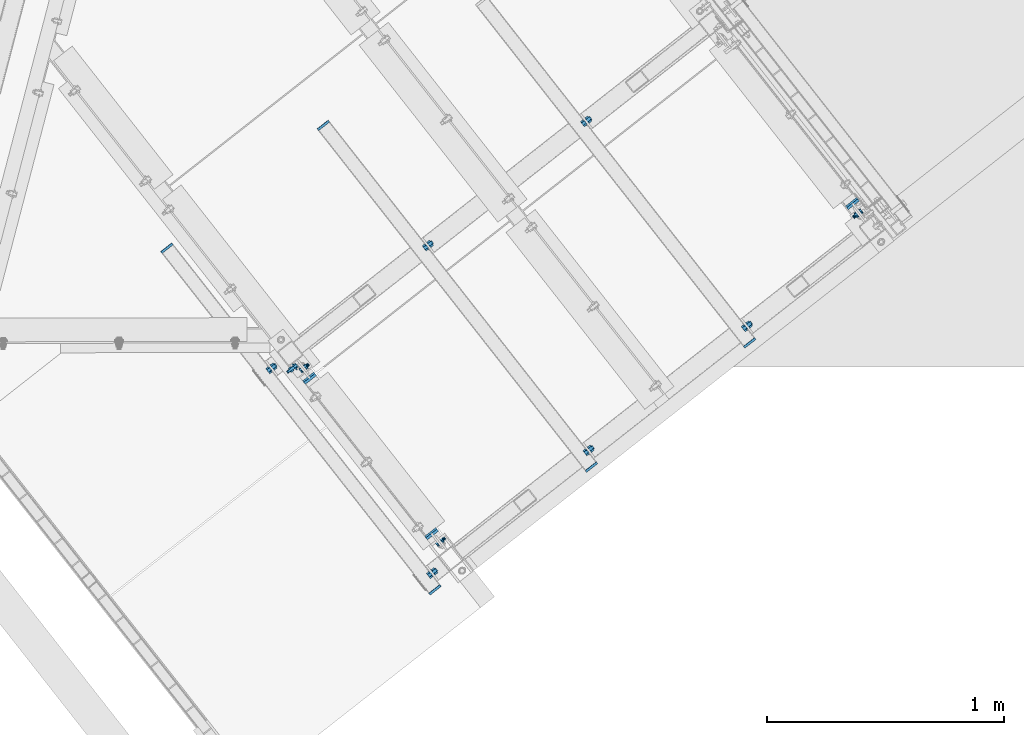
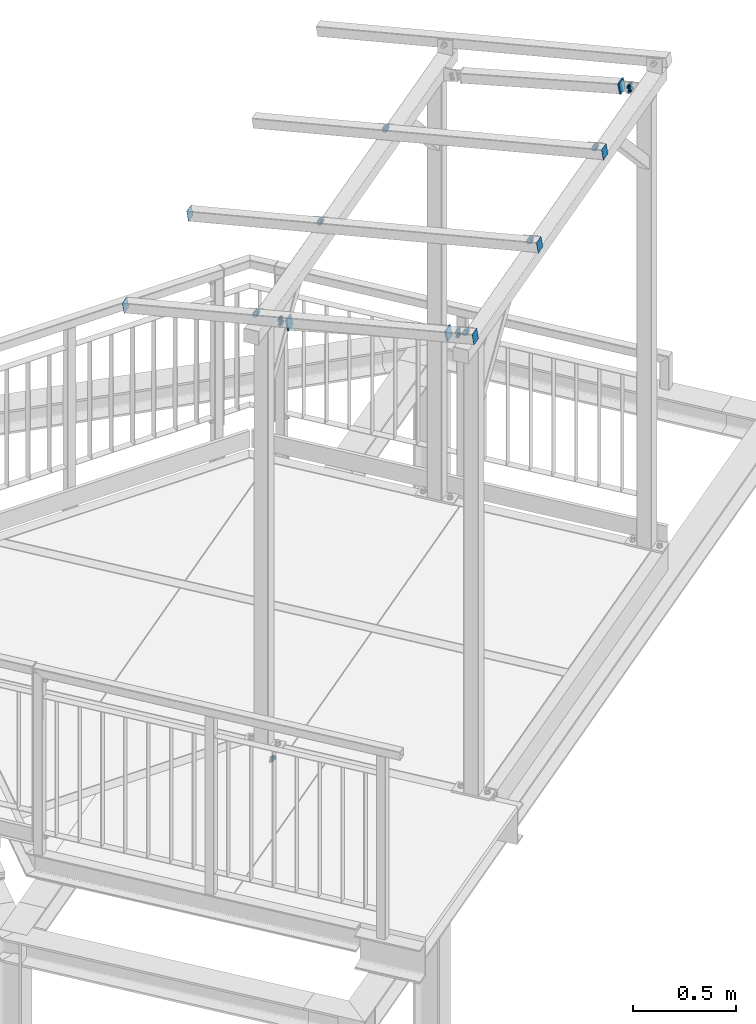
# One storey, part 168 of 169: 10 mechanical fasteners, 8 discrete accessories, 8 elements without a shape of their own.
"""IFC2X3 building model written with IfcOpenShell, lengths in millimetres."""

from ifc_helpers import new_model, si_unit, frame, frame_2d, origin_with_axes, origin_2d_with_axis, place, context, subcontext, project, spatial, polyline, circle_curve, parameter, trimmed, segment, composite_curve, circle, outline, extrude, source, transform, mapped, material, type_object, element, aggregate, save


model = new_model("IFC2X3")

# Units and contexts
model_context = context("Model", 3, precision=1e-05, world=origin_with_axes())
body_context = subcontext(model_context, "Body", "Model", "MODEL_VIEW")
ifc_project = project(units=[si_unit("LENGTHUNIT", "METRE", prefix="MILLI"), si_unit("AREAUNIT", "SQUARE_METRE"), si_unit("VOLUMEUNIT", "CUBIC_METRE"), si_unit("MASSUNIT", "GRAM", prefix="KILO"), si_unit("TIMEUNIT", "SECOND"), si_unit("PLANEANGLEUNIT", "RADIAN"), si_unit("SOLIDANGLEUNIT", "STERADIAN"), si_unit("THERMODYNAMICTEMPERATUREUNIT", "DEGREE_CELSIUS"), si_unit("LUMINOUSINTENSITYUNIT", "LUMEN")], contexts=[model_context])

# Site, building, storey
site_placement = place(None, origin_with_axes())
site = spatial("IfcSite", under=ifc_project, at=site_placement, Name="Undefined", CompositionType="ELEMENT")
building_placement = place(site_placement, origin_with_axes())
building = spatial("IfcBuilding", under=site, at=building_placement, Name="Undefined", CompositionType="ELEMENT")
storey_placement = place(building_placement, origin_with_axes())
storey = spatial("IfcBuildingStorey", under=building, at=storey_placement, Name="Undefined", CompositionType="ELEMENT", Elevation=0.0)

# Assembly, discrete accessory
assembly_1_placement = place(storey_placement, origin_with_axes())
assembly_1 = element("IfcElementAssembly", 1, at=assembly_1_placement, inside=storey, Name="Steel Assembly", AssemblyPlace="NOTDEFINED", PredefinedType="RIGID_FRAME")
ifc_material_1 = material(Name="STEEL/S235")
discrete_accessory_type_1 = type_object("IfcDiscreteAccessoryType", Name="BLACHA")
discrete_accessory_1_placement = place(assembly_1_placement, frame((22315.4039878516, 652.670061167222, 16489.1699975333), z_axis=(-0.607017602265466, 0.773740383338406, -0.181260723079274), x_axis=(0.786773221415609, 0.617242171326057, 0.0)))
discrete_accessory_1 = element("IfcDiscreteAccessory", 2, at=discrete_accessory_1_placement, type_object=discrete_accessory_type_1, material=ifc_material_1, Name="BLACHA", ObjectType="BL8*60", context=body_context, shape_type="SweptSolid", body=[
    extrude(outline(polyline([(1.63709046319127e-10, -30.0000000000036), (-1.63709046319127e-10, 30.0000000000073), (60.0000000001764, 30.0000000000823), (60.0000000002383, -29.9999999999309), (1.63709046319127e-10, -30.0000000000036)])), frame((1.81942236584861e-12, -3.63797880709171e-12, -4.00000000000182), z_axis=(0.0, 0.0, 1.0), x_axis=(1.0, 0.0, 0.0)), (0.0, 0.0, 1.0), 8.0),
])

# Assembly, discrete accessories
assembly_2_placement = place(storey_placement, origin_with_axes())
assembly_2 = element("IfcElementAssembly", 3, at=assembly_2_placement, inside=storey, Name="Steel Assembly", AssemblyPlace="NOTDEFINED", PredefinedType="RIGID_FRAME")
discrete_accessory_2_placement = place(assembly_2_placement, frame((20584.502900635, -705.262715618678, 16489.1697627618), z_axis=(-0.607017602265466, 0.773740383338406, -0.181260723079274), x_axis=(-0.7867732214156, -0.61724217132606, -1.0406294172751e-07)))
discrete_accessory_2 = element("IfcDiscreteAccessory", 4, at=discrete_accessory_2_placement, type_object=discrete_accessory_type_1, material=ifc_material_1, Name="BLACHA", ObjectType="BL8*60", context=body_context, shape_type="SweptSolid", body=[
    extrude(outline(polyline([(60.0000000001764, 30.0000000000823), (60.0000000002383, -29.9999999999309), (1.63709046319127e-10, -30.0000000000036), (-1.63709046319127e-10, 30.0000000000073), (60.0000000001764, 30.0000000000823)])), frame((1.81942236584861e-12, -3.63797880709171e-12, -4.00000000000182), z_axis=(0.0, 0.0, 1.0), x_axis=(1.0, 0.0, 0.0)), (0.0, 0.0, 1.0), 8.0),
])
discrete_accessory_3_placement = place(assembly_2_placement, frame((20069.0354074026, -48.217492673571, 16335.2466966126), z_axis=(0.607017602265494, -0.773740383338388, 0.181260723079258), x_axis=(-0.7867732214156, -0.61724217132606, -1.0406294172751e-07)))
discrete_accessory_3 = element("IfcDiscreteAccessory", 5, at=discrete_accessory_3_placement, type_object=discrete_accessory_type_1, material=ifc_material_1, Name="BLACHA", ObjectType="BL8*60", context=body_context, shape_type="SweptSolid", body=[
    extrude(outline(polyline([(60.0000000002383, -29.9999999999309), (1.63709046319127e-10, -30.0000000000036), (-1.63709046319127e-10, 30.0000000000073), (60.0000000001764, 30.0000000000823), (60.0000000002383, -29.9999999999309)])), frame((1.81942236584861e-12, -3.63797880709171e-12, -4.00000000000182), z_axis=(0.0, 0.0, 1.0), x_axis=(1.0, 0.0, 0.0)), (0.0, 0.0, 1.0), 8.0),
])

# Assembly, discrete accessory
assembly_3_placement = place(storey_placement, origin_with_axes())
assembly_3 = element("IfcElementAssembly", 6, at=assembly_3_placement, inside=storey, Name="Steel Assembly", AssemblyPlace="NOTDEFINED", PredefinedType="RIGID_FRAME")
discrete_accessory_4_placement = place(assembly_3_placement, frame((20082.9710721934, 978.989967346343, 16285.9941041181), z_axis=(0.609591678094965, -0.777021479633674, 0.156957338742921), x_axis=(0.786773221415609, 0.617242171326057, 0.0)))
discrete_accessory_4 = element("IfcDiscreteAccessory", 7, at=discrete_accessory_4_placement, type_object=discrete_accessory_type_1, material=ifc_material_1, Name="BLACHA", ObjectType="BL1*60", context=body_context, shape_type="SweptSolid", body=[
    extrude(outline(polyline([(0.0, 0.0), (60.0000000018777, -8.8220986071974e-11), (59.9999961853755, 60.0000000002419), (5.3567816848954e-11, 59.9999999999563), (0.0, 0.0)])), frame((4.96240207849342e-17, -1.81897552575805e-12, -0.5), z_axis=(0.0, 0.0, 1.0), x_axis=(1.0, 0.0, 0.0)), (0.0, 0.0, 1.0), 1.0),
])

assembly_4_placement = place(storey_placement, origin_with_axes())
assembly_4 = element("IfcElementAssembly", 8, at=assembly_4_placement, inside=storey, Name="Steel Assembly", AssemblyPlace="NOTDEFINED", PredefinedType="RIGID_FRAME")
discrete_accessory_5_placement = place(assembly_4_placement, frame((19422.0815651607, 460.506542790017, 16285.9940174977), z_axis=(0.609591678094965, -0.777021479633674, 0.156957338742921), x_axis=(0.786773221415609, 0.617242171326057, 0.0)))
discrete_accessory_5 = element("IfcDiscreteAccessory", 9, at=discrete_accessory_5_placement, type_object=discrete_accessory_type_1, material=ifc_material_1, Name="BLACHA", ObjectType="BL1*60", context=body_context, shape_type="SweptSolid", body=[
    extrude(outline(polyline([(0.0, 0.0), (60.0000000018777, -8.8220986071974e-11), (59.9999961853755, 60.0000000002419), (5.3567816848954e-11, 59.9999999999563), (0.0, 0.0)])), frame((4.96240207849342e-17, -1.81897552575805e-12, -0.5), z_axis=(0.0, 0.0, 1.0), x_axis=(1.0, 0.0, 0.0)), (0.0, 0.0, 1.0), 1.0),
])

assembly_5_placement = place(storey_placement, origin_with_axes())
assembly_5 = element("IfcElementAssembly", 10, at=assembly_5_placement, inside=storey, Name="Steel Assembly", AssemblyPlace="NOTDEFINED", PredefinedType="RIGID_FRAME")
discrete_accessory_6_placement = place(assembly_5_placement, frame((21925.44605229, 104.762625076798, 16636.8007538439), z_axis=(0.609591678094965, -0.777021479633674, 0.156957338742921), x_axis=(-0.7867732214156, -0.61724217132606, -1.0406294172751e-07)))
discrete_accessory_6 = element("IfcDiscreteAccessory", 11, at=discrete_accessory_6_placement, type_object=discrete_accessory_type_1, material=ifc_material_1, Name="BLACHA", ObjectType="BL1*60", context=body_context, shape_type="SweptSolid", body=[
    extrude(outline(polyline([(0.0, 0.0), (60.0000000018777, -8.8220986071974e-11), (59.9999961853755, 60.0000000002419), (5.3567816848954e-11, 59.9999999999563), (0.0, 0.0)])), frame((4.96240207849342e-17, -1.81897552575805e-12, -0.5), z_axis=(0.0, 0.0, 1.0), x_axis=(1.0, 0.0, 0.0)), (0.0, 0.0, 1.0), 1.0),
])
aggregate(assembly_5, [discrete_accessory_6])

# Discrete accessory
discrete_accessory_7_placement = place(assembly_3_placement, frame((21256.6888140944, -419.893220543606, 16636.8006654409), z_axis=(0.609591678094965, -0.777021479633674, 0.156957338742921), x_axis=(-0.7867732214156, -0.61724217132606, -1.0406294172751e-07)))
discrete_accessory_7 = element("IfcDiscreteAccessory", 12, at=discrete_accessory_7_placement, type_object=discrete_accessory_type_1, material=ifc_material_1, Name="BLACHA", ObjectType="BL1*60", context=body_context, shape_type="SweptSolid", body=[
    extrude(outline(polyline([(0.0, 0.0), (60.0000000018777, -8.8220986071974e-11), (59.9999961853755, 60.0000000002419), (5.3567816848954e-11, 59.9999999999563), (0.0, 0.0)])), frame((4.96240207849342e-17, -1.81897552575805e-12, -0.5), z_axis=(0.0, 0.0, 1.0), x_axis=(1.0, 0.0, 0.0)), (0.0, 0.0, 1.0), 1.0),
])

aggregate(assembly_3, [discrete_accessory_4, discrete_accessory_7])

discrete_accessory_8_placement = place(assembly_4_placement, frame((20595.7993127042, -938.376641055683, 16636.8005770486), z_axis=(0.609591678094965, -0.777021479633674, 0.156957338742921), x_axis=(-0.7867732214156, -0.61724217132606, -1.0406294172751e-07)))
discrete_accessory_8 = element("IfcDiscreteAccessory", 13, at=discrete_accessory_8_placement, type_object=discrete_accessory_type_1, material=ifc_material_1, Name="BLACHA", ObjectType="BL1*60", context=body_context, shape_type="SweptSolid", body=[
    extrude(outline(polyline([(0.0, 0.0), (60.0000000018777, -8.8220986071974e-11), (59.9999961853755, 60.0000000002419), (5.3567816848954e-11, 59.9999999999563), (0.0, 0.0)])), frame((4.96240207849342e-17, -1.81897552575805e-12, -0.5), z_axis=(0.0, 0.0, 1.0), x_axis=(1.0, 0.0, 0.0)), (0.0, 0.0, 1.0), 1.0),
])

aggregate(assembly_4, [discrete_accessory_5, discrete_accessory_8])

# Assembly, mechanical fasteners
assembly_6_placement = place(storey_placement, origin_with_axes())
assembly_6 = element("IfcElementAssembly", 14, at=assembly_6_placement, inside=storey, Name="Steel Assembly", AssemblyPlace="NOTDEFINED", PredefinedType="RIGID_FRAME")
ifc_material_2 = material(Name="Undefined")
discrete_accessory_type_2 = type_object("IfcDiscreteAccessoryType", Name="Bolt assembly")
shared_shape_1 = source(origin_with_axes(), body_context, "Body", "SweptSolid", [
    extrude(circle(Radius=9.5, at=origin_2d_with_axis()), frame((0.0, -0.900003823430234, 0.0), z_axis=(0.0, 1.0, 0.0), x_axis=(1.0, 0.0, 0.0)), (0.0, 0.0, 1.0), 3.0),
    extrude(outline(composite_curve([segment(polyline([(9.5, 7.5), (9.5, -7.5)]), True, "CONTINUOUS"), segment(trimmed(circle_curve(frame_2d((0.0, -7.5), x_axis=(1.0, 0.0)), 9.5), [parameter(0.0)], [parameter(3.14159265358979)], False, "PARAMETER"), True, "CONTINUOUS"), segment(polyline([(-9.5, -7.5), (-9.5, 7.5)]), True, "CONTINUOUS"), segment(trimmed(circle_curve(frame_2d((0.0, 7.5), x_axis=(-1.0, 0.0)), 9.5), [parameter(0.0)], [parameter(3.14159265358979)], False, "PARAMETER"), True, "DISCONTINUOUS")], self_intersect=False)), frame((0.0, 1.90000102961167, 0.0), z_axis=(0.0, 1.0, 0.0), x_axis=(1.0, 0.0, 0.0)), (0.0, 0.0, 1.0), 8.1),
    extrude(outline(polyline([(13.85640646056, 0.0), (6.92820323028, 12.0000000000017), (-6.92820323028, 12.0000000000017), (-13.85640646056, 0.0), (-6.92820323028, -12.0000000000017), (6.92820323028, -12.0000000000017), (13.85640646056, 0.0)])), frame((0.0, -14.0000001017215, 0.0), z_axis=(0.0, 1.0, 0.0), x_axis=(1.0, 0.0, 0.0)), (0.0, 0.0, 1.0), 10.0),
    extrude(circle(Radius=8.0, at=origin_2d_with_axis()), frame((0.0, -4.00000382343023, 0.0), z_axis=(0.0, 1.0, 0.0), x_axis=(1.0, 0.0, 0.0)), (0.0, 0.0, 1.0), 35.0),
    extrude(circle(Radius=15.0, at=origin_2d_with_axis()), frame((0.0, -4.00000382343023, 0.0), z_axis=(0.0, 1.0, 0.0), x_axis=(1.0, 0.0, 0.0)), (0.0, 0.0, 1.0), 3.0),
    extrude(circle(Radius=15.0, at=origin_2d_with_axis()), frame((0.0, 9.99999999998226, 0.0), z_axis=(0.0, 1.0, 0.0), x_axis=(1.0, 0.0, 0.0)), (0.0, 0.0, 1.0), 3.0),
    extrude(outline(polyline([(13.85640646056, 0.0), (6.92820323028, 12.0000000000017), (-6.92820323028, 12.0000000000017), (-13.85640646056, 0.0), (-6.92820323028, -12.0000000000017), (6.92820323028, -12.0000000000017), (13.85640646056, 0.0)])), frame((0.0, 13.0000000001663, 0.0), z_axis=(0.0, 1.0, 0.0), x_axis=(1.0, 0.0, 0.0)), (0.0, 0.0, 1.0), 13.0),
])
mechanical_fastener_1_placement = place(assembly_6_placement, frame((20558.463074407, -894.025888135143, 16598.2256629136), z_axis=(-3.49733864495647e-05, 4.45794925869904e-05, 0.999999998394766), x_axis=(0.617242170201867, -0.786773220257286, 5.66609999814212e-05)))
mechanical_fastener_1 = element("IfcMechanicalFastener", 15, at=mechanical_fastener_1_placement, type_object=discrete_accessory_type_2, material=ifc_material_2, Name="Bolt assembly", NominalDiameter=16.0, NominalLength=35.0, context=body_context, shape_type="MappedRepresentation", body=[
    mapped(shared_shape_1, transform((0.0, 0.0, 0.0))),
])
shared_shape_2 = source(origin_with_axes(), body_context, "Body", "SweptSolid", [
    extrude(circle(Radius=9.5, at=origin_2d_with_axis()), frame((0.0, -0.900003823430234, 0.0), z_axis=(0.0, 1.0, 0.0), x_axis=(1.0, 0.0, 0.0)), (0.0, 0.0, 1.0), 3.0),
    extrude(outline(composite_curve([segment(polyline([(9.5, 7.5), (9.5, -7.5)]), True, "CONTINUOUS"), segment(trimmed(circle_curve(frame_2d((0.0, -7.5), x_axis=(1.0, 0.0)), 9.5), [parameter(0.0)], [parameter(3.14159265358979)], False, "PARAMETER"), True, "CONTINUOUS"), segment(polyline([(-9.5, -7.5), (-9.5, 7.5)]), True, "CONTINUOUS"), segment(trimmed(circle_curve(frame_2d((0.0, 7.5), x_axis=(-1.0, 0.0)), 9.5), [parameter(0.0)], [parameter(3.14159265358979)], False, "PARAMETER"), True, "DISCONTINUOUS")], self_intersect=False)), frame((0.0, 1.90000102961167, 0.0), z_axis=(0.0, 1.0, 0.0), x_axis=(1.0, 0.0, 0.0)), (0.0, 0.0, 1.0), 8.1),
    extrude(outline(polyline([(13.85640646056, 0.0), (6.92820323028, 12.0000000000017), (-6.92820323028, 12.0000000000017), (-13.85640646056, 0.0), (-6.92820323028, -12.0000000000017), (6.92820323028, -12.0000000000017), (13.85640646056, 0.0)])), frame((0.0, -14.0000001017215, 0.0), z_axis=(0.0, 1.0, 0.0), x_axis=(1.0, 0.0, 0.0)), (0.0, 0.0, 1.0), 10.0),
    extrude(circle(Radius=8.0, at=origin_2d_with_axis()), frame((0.0, -4.00000382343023, 0.0), z_axis=(0.0, 1.0, 0.0), x_axis=(1.0, 0.0, 0.0)), (0.0, 0.0, 1.0), 35.0),
    extrude(circle(Radius=15.0, at=origin_2d_with_axis()), frame((0.0, -4.00000382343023, 0.0), z_axis=(0.0, 1.0, 0.0), x_axis=(1.0, 0.0, 0.0)), (0.0, 0.0, 1.0), 3.0),
    extrude(circle(Radius=15.0, at=origin_2d_with_axis()), frame((0.0, 9.99999999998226, 0.0), z_axis=(0.0, 1.0, 0.0), x_axis=(1.0, 0.0, 0.0)), (0.0, 0.0, 1.0), 3.0),
    extrude(outline(polyline([(13.85640646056, 0.0), (6.92820323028, 12.0000000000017), (-6.92820323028, 12.0000000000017), (-13.85640646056, 0.0), (-6.92820323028, -12.0000000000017), (6.92820323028, -12.0000000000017), (13.85640646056, 0.0)])), frame((0.0, 13.0000000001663, 0.0), z_axis=(0.0, 1.0, 0.0), x_axis=(1.0, 0.0, 0.0)), (0.0, 0.0, 1.0), 13.0),
])
mechanical_fastener_2_placement = place(assembly_6_placement, frame((21219.3525803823, -375.542464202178, 16598.2257505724), z_axis=(-3.49733864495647e-05, 4.45794925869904e-05, 0.999999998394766), x_axis=(0.617242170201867, -0.786773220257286, 5.66609999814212e-05)))
mechanical_fastener_2 = element("IfcMechanicalFastener", 16, at=mechanical_fastener_2_placement, type_object=discrete_accessory_type_2, material=ifc_material_2, Name="Bolt assembly", NominalDiameter=16.0, NominalLength=35.0, context=body_context, shape_type="MappedRepresentation", body=[
    mapped(shared_shape_2, transform((0.0, 0.0, 0.0))),
])

assembly_7_placement = place(storey_placement, origin_with_axes())
assembly_7 = element("IfcElementAssembly", 17, at=assembly_7_placement, inside=storey, Name="Steel Assembly", AssemblyPlace="NOTDEFINED", PredefinedType="RIGID_FRAME")
shared_shape_3 = source(origin_with_axes(), body_context, "Body", "SweptSolid", [
    extrude(circle(Radius=9.5, at=origin_2d_with_axis()), frame((0.0, -0.900003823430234, 0.0), z_axis=(0.0, 1.0, 0.0), x_axis=(1.0, 0.0, 0.0)), (0.0, 0.0, 1.0), 3.0),
    extrude(outline(composite_curve([segment(polyline([(9.5, 7.5), (9.5, -7.5)]), True, "CONTINUOUS"), segment(trimmed(circle_curve(frame_2d((0.0, -7.5), x_axis=(1.0, 0.0)), 9.5), [parameter(0.0)], [parameter(3.14159265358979)], False, "PARAMETER"), True, "CONTINUOUS"), segment(polyline([(-9.5, -7.5), (-9.5, 7.5)]), True, "CONTINUOUS"), segment(trimmed(circle_curve(frame_2d((0.0, 7.5), x_axis=(-1.0, 0.0)), 9.5), [parameter(0.0)], [parameter(3.14159265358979)], False, "PARAMETER"), True, "DISCONTINUOUS")], self_intersect=False)), frame((0.0, 1.90000102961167, 0.0), z_axis=(0.0, 1.0, 0.0), x_axis=(1.0, 0.0, 0.0)), (0.0, 0.0, 1.0), 8.1),
    extrude(outline(polyline([(13.85640646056, 0.0), (6.92820323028, 12.0000000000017), (-6.92820323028, 12.0000000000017), (-13.85640646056, 0.0), (-6.92820323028, -12.0000000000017), (6.92820323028, -12.0000000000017), (13.85640646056, 0.0)])), frame((0.0, -14.0000001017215, 0.0), z_axis=(0.0, 1.0, 0.0), x_axis=(1.0, 0.0, 0.0)), (0.0, 0.0, 1.0), 10.0),
    extrude(circle(Radius=8.0, at=origin_2d_with_axis()), frame((0.0, -4.00000382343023, 0.0), z_axis=(0.0, 1.0, 0.0), x_axis=(1.0, 0.0, 0.0)), (0.0, 0.0, 1.0), 35.0),
    extrude(circle(Radius=15.0, at=origin_2d_with_axis()), frame((0.0, -4.00000382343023, 0.0), z_axis=(0.0, 1.0, 0.0), x_axis=(1.0, 0.0, 0.0)), (0.0, 0.0, 1.0), 3.0),
    extrude(circle(Radius=15.0, at=origin_2d_with_axis()), frame((0.0, 9.99999999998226, 0.0), z_axis=(0.0, 1.0, 0.0), x_axis=(1.0, 0.0, 0.0)), (0.0, 0.0, 1.0), 3.0),
    extrude(outline(polyline([(13.85640646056, 0.0), (6.92820323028, 12.0000000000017), (-6.92820323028, 12.0000000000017), (-13.85640646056, 0.0), (-6.92820323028, -12.0000000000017), (6.92820323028, -12.0000000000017), (13.85640646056, 0.0)])), frame((0.0, 13.0000000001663, 0.0), z_axis=(0.0, 1.0, 0.0), x_axis=(1.0, 0.0, 0.0)), (0.0, 0.0, 1.0), 13.0),
])
mechanical_fastener_3_placement = place(assembly_7_placement, frame((19879.4968973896, -28.5756140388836, 16422.2256626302), z_axis=(-3.49733864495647e-05, 4.45794925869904e-05, 0.999999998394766), x_axis=(0.617242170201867, -0.786773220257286, 5.66609999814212e-05)))
mechanical_fastener_3 = element("IfcMechanicalFastener", 18, at=mechanical_fastener_3_placement, type_object=discrete_accessory_type_2, material=ifc_material_2, Name="Bolt assembly", NominalDiameter=16.0, NominalLength=35.0, context=body_context, shape_type="MappedRepresentation", body=[
    mapped(shared_shape_3, transform((0.0, 0.0, 0.0))),
])
shared_shape_4 = source(origin_with_axes(), body_context, "Body", "SweptSolid", [
    extrude(circle(Radius=9.5, at=origin_2d_with_axis()), frame((0.0, -0.900003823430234, 0.0), z_axis=(0.0, 1.0, 0.0), x_axis=(1.0, 0.0, 0.0)), (0.0, 0.0, 1.0), 3.0),
    extrude(outline(composite_curve([segment(polyline([(9.5, 7.5), (9.5, -7.5)]), True, "CONTINUOUS"), segment(trimmed(circle_curve(frame_2d((0.0, -7.5), x_axis=(1.0, 0.0)), 9.5), [parameter(0.0)], [parameter(3.14159265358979)], False, "PARAMETER"), True, "CONTINUOUS"), segment(polyline([(-9.5, -7.5), (-9.5, 7.5)]), True, "CONTINUOUS"), segment(trimmed(circle_curve(frame_2d((0.0, 7.5), x_axis=(-1.0, 0.0)), 9.5), [parameter(0.0)], [parameter(3.14159265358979)], False, "PARAMETER"), True, "DISCONTINUOUS")], self_intersect=False)), frame((0.0, 1.90000102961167, 0.0), z_axis=(0.0, 1.0, 0.0), x_axis=(1.0, 0.0, 0.0)), (0.0, 0.0, 1.0), 8.1),
    extrude(outline(polyline([(13.85640646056, 0.0), (6.92820323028, 12.0000000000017), (-6.92820323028, 12.0000000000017), (-13.85640646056, 0.0), (-6.92820323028, -12.0000000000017), (6.92820323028, -12.0000000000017), (13.85640646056, 0.0)])), frame((0.0, -14.0000001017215, 0.0), z_axis=(0.0, 1.0, 0.0), x_axis=(1.0, 0.0, 0.0)), (0.0, 0.0, 1.0), 10.0),
    extrude(circle(Radius=8.0, at=origin_2d_with_axis()), frame((0.0, -4.00000382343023, 0.0), z_axis=(0.0, 1.0, 0.0), x_axis=(1.0, 0.0, 0.0)), (0.0, 0.0, 1.0), 35.0),
    extrude(circle(Radius=15.0, at=origin_2d_with_axis()), frame((0.0, -4.00000382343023, 0.0), z_axis=(0.0, 1.0, 0.0), x_axis=(1.0, 0.0, 0.0)), (0.0, 0.0, 1.0), 3.0),
    extrude(circle(Radius=15.0, at=origin_2d_with_axis()), frame((0.0, 9.99999999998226, 0.0), z_axis=(0.0, 1.0, 0.0), x_axis=(1.0, 0.0, 0.0)), (0.0, 0.0, 1.0), 3.0),
    extrude(outline(polyline([(13.85640646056, 0.0), (6.92820323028, 12.0000000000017), (-6.92820323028, 12.0000000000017), (-13.85640646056, 0.0), (-6.92820323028, -12.0000000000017), (6.92820323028, -12.0000000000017), (13.85640646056, 0.0)])), frame((0.0, 13.0000000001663, 0.0), z_axis=(0.0, 1.0, 0.0), x_axis=(1.0, 0.0, 0.0)), (0.0, 0.0, 1.0), 13.0),
])
mechanical_fastener_4_placement = place(assembly_7_placement, frame((20540.3864033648, 489.907809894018, 16422.2257502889), z_axis=(-3.49733864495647e-05, 4.45794925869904e-05, 0.999999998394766), x_axis=(0.617242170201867, -0.786773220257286, 5.66609999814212e-05)))
mechanical_fastener_4 = element("IfcMechanicalFastener", 19, at=mechanical_fastener_4_placement, type_object=discrete_accessory_type_2, material=ifc_material_2, Name="Bolt assembly", NominalDiameter=16.0, NominalLength=35.0, context=body_context, shape_type="MappedRepresentation", body=[
    mapped(shared_shape_4, transform((0.0, 0.0, 0.0))),
])

# Assembly, mechanical fastener
assembly_8_placement = place(storey_placement, origin_with_axes())
assembly_8 = element("IfcElementAssembly", 20, at=assembly_8_placement, inside=storey, Name="Steel Assembly", AssemblyPlace="NOTDEFINED", PredefinedType="RIGID_FRAME")
shared_shape_5 = source(origin_with_axes(), body_context, "Body", "SweptSolid", [
    extrude(circle(Radius=7.5, at=origin_2d_with_axis()), frame((0.0, 4.99997856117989, 0.0), z_axis=(0.0, 1.0, 0.0), x_axis=(1.0, 0.0, 0.0)), (0.0, 0.0, 1.0), 7.0),
    extrude(circle(Radius=7.5, at=origin_2d_with_axis()), frame((0.0, 11.899975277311, 0.0), z_axis=(0.0, 1.0, 0.0), x_axis=(1.0, 0.0, 0.0)), (0.0, 0.0, 1.0), 3.1),
    extrude(outline(composite_curve([segment(polyline([(-10.0, 7.5), (10.0, 7.5)]), True, "CONTINUOUS"), segment(trimmed(circle_curve(frame_2d((10.0, 0.0), x_axis=(0.0, 1.0)), 7.5), [parameter(0.0)], [parameter(3.14159265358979)], False, "PARAMETER"), True, "CONTINUOUS"), segment(polyline([(10.0, -7.5), (-10.0, -7.5)]), True, "CONTINUOUS"), segment(trimmed(circle_curve(frame_2d((-10.0, 0.0), x_axis=(0.0, -1.0)), 7.5), [parameter(0.0)], [parameter(3.14159265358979)], False, "PARAMETER"), True, "DISCONTINUOUS")], self_intersect=False)), frame((0.0, 0.100000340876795, 0.0), z_axis=(0.0, 1.0, 0.0), x_axis=(1.0, 0.0, 0.0)), (0.0, 0.0, 1.0), 5.0),
    extrude(outline(polyline([(10.39230484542, 0.0), (5.19615242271, 9.00000000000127), (-5.19615242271, 9.00000000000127), (-10.39230484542, 0.0), (-5.19615242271, -9.00000000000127), (5.19615242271, -9.00000000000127), (10.39230484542, 0.0)])), frame((0.0, -10.4999989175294, 0.0), z_axis=(0.0, 1.0, 0.0), x_axis=(1.0, 0.0, 0.0)), (0.0, 0.0, 1.0), 7.5),
    extrude(circle(Radius=6.0, at=origin_2d_with_axis()), frame((0.0, -3.00000607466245, 0.0), z_axis=(0.0, 1.0, 0.0), x_axis=(1.0, 0.0, 0.0)), (0.0, 0.0, 1.0), 45.0),
    extrude(circle(Radius=12.0, at=origin_2d_with_axis()), frame((0.0, -3.00000607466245, 0.0), z_axis=(0.0, 1.0, 0.0), x_axis=(1.0, 0.0, 0.0)), (0.0, 0.0, 1.0), 3.0),
    extrude(circle(Radius=12.0, at=origin_2d_with_axis()), frame((0.0, 14.9999935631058, 0.0), z_axis=(0.0, 1.0, 0.0), x_axis=(1.0, 0.0, 0.0)), (0.0, 0.0, 1.0), 3.0),
    extrude(outline(polyline([(10.96965511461, 0.0), (5.484827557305, 9.50000000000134), (-5.484827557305, 9.50000000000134), (-10.96965511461, 0.0), (-5.484827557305, -9.50000000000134), (5.484827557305, -9.50000000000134), (10.96965511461, 0.0)])), frame((0.0, 17.9999752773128, 0.0), z_axis=(0.0, 1.0, 0.0), x_axis=(1.0, 0.0, 0.0)), (0.0, 0.0, 1.0), 10.0),
])
mechanical_fastener_5_placement = place(assembly_8_placement, frame((19983.445329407, -16.8846014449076, 13740.4179537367), z_axis=(0.0, 0.0, 1.0), x_axis=(-0.617242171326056, 0.786773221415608, 5.09999997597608e-08)))
mechanical_fastener_5 = element("IfcMechanicalFastener", 21, at=mechanical_fastener_5_placement, type_object=discrete_accessory_type_2, material=ifc_material_2, Name="Bolt assembly", NominalDiameter=12.0, NominalLength=45.0, context=body_context, shape_type="MappedRepresentation", body=[
    mapped(shared_shape_5, transform((0.0, 0.0, 0.0))),
])
aggregate(assembly_8, [mechanical_fastener_5])

# Mechanical fastener
shared_shape_6 = source(origin_with_axes(), body_context, "Body", "SweptSolid", [
    extrude(circle(Radius=9.5, at=origin_2d_with_axis()), frame((0.0, -0.900003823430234, 0.0), z_axis=(0.0, 1.0, 0.0), x_axis=(1.0, 0.0, 0.0)), (0.0, 0.0, 1.0), 3.0),
    extrude(outline(composite_curve([segment(polyline([(9.5, 7.5), (9.5, -7.5)]), True, "CONTINUOUS"), segment(trimmed(circle_curve(frame_2d((0.0, -7.5), x_axis=(1.0, 0.0)), 9.5), [parameter(0.0)], [parameter(3.14159265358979)], False, "PARAMETER"), True, "CONTINUOUS"), segment(polyline([(-9.5, -7.5), (-9.5, 7.5)]), True, "CONTINUOUS"), segment(trimmed(circle_curve(frame_2d((0.0, 7.5), x_axis=(-1.0, 0.0)), 9.5), [parameter(0.0)], [parameter(3.14159265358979)], False, "PARAMETER"), True, "DISCONTINUOUS")], self_intersect=False)), frame((0.0, 1.90000102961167, 0.0), z_axis=(0.0, 1.0, 0.0), x_axis=(1.0, 0.0, 0.0)), (0.0, 0.0, 1.0), 8.1),
    extrude(outline(polyline([(13.85640646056, 0.0), (6.92820323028, 12.0000000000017), (-6.92820323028, 12.0000000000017), (-13.85640646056, 0.0), (-6.92820323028, -12.0000000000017), (6.92820323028, -12.0000000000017), (13.85640646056, 0.0)])), frame((0.0, -14.0000001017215, 0.0), z_axis=(0.0, 1.0, 0.0), x_axis=(1.0, 0.0, 0.0)), (0.0, 0.0, 1.0), 10.0),
    extrude(circle(Radius=8.0, at=origin_2d_with_axis()), frame((0.0, -4.00000382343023, 0.0), z_axis=(0.0, 1.0, 0.0), x_axis=(1.0, 0.0, 0.0)), (0.0, 0.0, 1.0), 35.0),
    extrude(circle(Radius=15.0, at=origin_2d_with_axis()), frame((0.0, -4.00000382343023, 0.0), z_axis=(0.0, 1.0, 0.0), x_axis=(1.0, 0.0, 0.0)), (0.0, 0.0, 1.0), 3.0),
    extrude(circle(Radius=15.0, at=origin_2d_with_axis()), frame((0.0, 9.99999999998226, 0.0), z_axis=(0.0, 1.0, 0.0), x_axis=(1.0, 0.0, 0.0)), (0.0, 0.0, 1.0), 3.0),
    extrude(outline(polyline([(13.85640646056, 0.0), (6.92820323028, 12.0000000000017), (-6.92820323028, 12.0000000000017), (-13.85640646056, 0.0), (-6.92820323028, -12.0000000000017), (6.92820323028, -12.0000000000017), (13.85640646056, 0.0)])), frame((0.0, 13.0000000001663, 0.0), z_axis=(0.0, 1.0, 0.0), x_axis=(1.0, 0.0, 0.0)), (0.0, 0.0, 1.0), 13.0),
])
mechanical_fastener_6_placement = place(assembly_6_placement, frame((21888.1098185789, 149.113381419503, 16598.2258389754), z_axis=(-3.49733864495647e-05, 4.45794925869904e-05, 0.999999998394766), x_axis=(0.617242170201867, -0.786773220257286, 5.66609999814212e-05)))
mechanical_fastener_6 = element("IfcMechanicalFastener", 22, at=mechanical_fastener_6_placement, type_object=discrete_accessory_type_2, material=ifc_material_2, Name="Bolt assembly", NominalDiameter=16.0, NominalLength=35.0, context=body_context, shape_type="MappedRepresentation", body=[
    mapped(shared_shape_6, transform((0.0, 0.0, 0.0))),
])

aggregate(assembly_6, [mechanical_fastener_1, mechanical_fastener_2, mechanical_fastener_6])

shared_shape_7 = source(origin_with_axes(), body_context, "Body", "SweptSolid", [
    extrude(circle(Radius=9.5, at=origin_2d_with_axis()), frame((0.0, -0.900003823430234, 0.0), z_axis=(0.0, 1.0, 0.0), x_axis=(1.0, 0.0, 0.0)), (0.0, 0.0, 1.0), 3.0),
    extrude(outline(composite_curve([segment(polyline([(9.5, 7.5), (9.5, -7.5)]), True, "CONTINUOUS"), segment(trimmed(circle_curve(frame_2d((0.0, -7.5), x_axis=(1.0, 0.0)), 9.5), [parameter(0.0)], [parameter(3.14159265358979)], False, "PARAMETER"), True, "CONTINUOUS"), segment(polyline([(-9.5, -7.5), (-9.5, 7.5)]), True, "CONTINUOUS"), segment(trimmed(circle_curve(frame_2d((0.0, 7.5), x_axis=(-1.0, 0.0)), 9.5), [parameter(0.0)], [parameter(3.14159265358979)], False, "PARAMETER"), True, "DISCONTINUOUS")], self_intersect=False)), frame((0.0, 1.90000102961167, 0.0), z_axis=(0.0, 1.0, 0.0), x_axis=(1.0, 0.0, 0.0)), (0.0, 0.0, 1.0), 8.1),
    extrude(outline(polyline([(13.85640646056, 0.0), (6.92820323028, 12.0000000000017), (-6.92820323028, 12.0000000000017), (-13.85640646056, 0.0), (-6.92820323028, -12.0000000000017), (6.92820323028, -12.0000000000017), (13.85640646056, 0.0)])), frame((0.0, -14.0000001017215, 0.0), z_axis=(0.0, 1.0, 0.0), x_axis=(1.0, 0.0, 0.0)), (0.0, 0.0, 1.0), 10.0),
    extrude(circle(Radius=8.0, at=origin_2d_with_axis()), frame((0.0, -4.00000382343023, 0.0), z_axis=(0.0, 1.0, 0.0), x_axis=(1.0, 0.0, 0.0)), (0.0, 0.0, 1.0), 35.0),
    extrude(circle(Radius=15.0, at=origin_2d_with_axis()), frame((0.0, -4.00000382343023, 0.0), z_axis=(0.0, 1.0, 0.0), x_axis=(1.0, 0.0, 0.0)), (0.0, 0.0, 1.0), 3.0),
    extrude(circle(Radius=15.0, at=origin_2d_with_axis()), frame((0.0, 9.99999999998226, 0.0), z_axis=(0.0, 1.0, 0.0), x_axis=(1.0, 0.0, 0.0)), (0.0, 0.0, 1.0), 3.0),
    extrude(outline(polyline([(13.85640646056, 0.0), (6.92820323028, 12.0000000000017), (-6.92820323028, 12.0000000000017), (-13.85640646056, 0.0), (-6.92820323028, -12.0000000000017), (6.92820323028, -12.0000000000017), (13.85640646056, 0.0)])), frame((0.0, 13.0000000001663, 0.0), z_axis=(0.0, 1.0, 0.0), x_axis=(1.0, 0.0, 0.0)), (0.0, 0.0, 1.0), 13.0),
])
mechanical_fastener_7_placement = place(assembly_7_placement, frame((21209.1436415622, 1014.56365551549, 16422.2258386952), z_axis=(-3.49733864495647e-05, 4.45794925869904e-05, 0.999999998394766), x_axis=(0.617242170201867, -0.786773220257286, 5.66609999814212e-05)))
mechanical_fastener_7 = element("IfcMechanicalFastener", 23, at=mechanical_fastener_7_placement, type_object=discrete_accessory_type_2, material=ifc_material_2, Name="Bolt assembly", NominalDiameter=16.0, NominalLength=35.0, context=body_context, shape_type="MappedRepresentation", body=[
    mapped(shared_shape_7, transform((0.0, 0.0, 0.0))),
])

aggregate(assembly_7, [mechanical_fastener_3, mechanical_fastener_4, mechanical_fastener_7])

shared_shape_8 = source(origin_with_axes(), body_context, "Body", "SweptSolid", [
    extrude(circle(Radius=6.5, at=origin_2d_with_axis()), frame((0.0, -4.10000000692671, 0.0), z_axis=(0.0, 1.0, 0.0), x_axis=(1.0, 0.0, 0.0)), (0.0, 0.0, 1.0), 8.1),
    extrude(circle(Radius=6.5, at=origin_2d_with_axis()), frame((0.0, -11.9000000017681, 0.0), z_axis=(0.0, 1.0, 0.0), x_axis=(1.0, 0.0, 0.0)), (0.0, 0.0, 1.0), 8.0),
    extrude(outline(polyline([(8.66025403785, 0.0), (4.330127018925, 7.50000000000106), (-4.330127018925, 7.50000000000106), (-8.66025403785, 0.0), (-4.330127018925, -7.50000000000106), (4.330127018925, -7.50000000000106), (8.66025403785, 0.0)])), frame((0.0, -20.4000000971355, 0.0), z_axis=(0.0, 1.0, 0.0), x_axis=(1.0, 0.0, 0.0)), (0.0, 0.0, 1.0), 6.4),
    extrude(circle(Radius=5.0, at=origin_2d_with_axis()), frame((0.0, -14.0000001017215, 0.0), z_axis=(0.0, 1.0, 0.0), x_axis=(1.0, 0.0, 0.0)), (0.0, 0.0, 1.0), 40.0),
    extrude(circle(Radius=10.0, at=origin_2d_with_axis()), frame((0.0, -14.0000001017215, 0.0), z_axis=(0.0, 1.0, 0.0), x_axis=(1.0, 0.0, 0.0)), (0.0, 0.0, 1.0), 2.0),
    extrude(circle(Radius=10.0, at=origin_2d_with_axis()), frame((0.0, 3.99999999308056, 0.0), z_axis=(0.0, 1.0, 0.0), x_axis=(1.0, 0.0, 0.0)), (0.0, 0.0, 1.0), 2.0),
    extrude(outline(polyline([(9.81495457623, 0.0), (4.907477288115, 8.5000000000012), (-4.907477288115, 8.5000000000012), (-9.81495457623, 0.0), (-4.907477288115, -8.5000000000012), (4.907477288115, -8.5000000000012), (9.81495457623, 0.0)])), frame((0.0, 5.99999999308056, 0.0), z_axis=(0.0, 1.0, 0.0), x_axis=(1.0, 0.0, 0.0)), (0.0, 0.0, 1.0), 8.0),
])
mechanical_fastener_8_placement = place(assembly_1_placement, frame((22362.4568612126, 628.336110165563, 16498.051773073), z_axis=(-0.111881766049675, 0.142611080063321, 0.983435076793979), x_axis=(-0.607017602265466, 0.773740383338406, -0.181260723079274)))
mechanical_fastener_8 = element("IfcMechanicalFastener", 24, at=mechanical_fastener_8_placement, type_object=discrete_accessory_type_2, material=ifc_material_2, Name="Bolt assembly", NominalDiameter=10.0, NominalLength=40.0, context=body_context, shape_type="MappedRepresentation", body=[
    mapped(shared_shape_8, transform((-2.16840434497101e-17, 4.54747358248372e-13, -12.4999999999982))),
    mapped(shared_shape_8, transform((-7.27595761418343e-12, -2.5465851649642e-11, 12.5000000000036))),
])

aggregate(assembly_1, [mechanical_fastener_8, discrete_accessory_1])

mechanical_fastener_9_placement = place(assembly_2_placement, frame((20596.9377523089, -756.755322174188, 16498.0515380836), z_axis=(0.111881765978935, -0.142611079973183, -0.983435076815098), x_axis=(-0.607017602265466, 0.773740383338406, -0.181260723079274)))
mechanical_fastener_9 = element("IfcMechanicalFastener", 25, at=mechanical_fastener_9_placement, type_object=discrete_accessory_type_2, material=ifc_material_2, Name="Bolt assembly", NominalDiameter=10.0, NominalLength=40.0, context=body_context, shape_type="MappedRepresentation", body=[
    mapped(shared_shape_8, transform((-2.16840434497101e-17, 4.54747358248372e-13, -12.4999999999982))),
    mapped(shared_shape_8, transform((-7.27595761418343e-12, -2.5465851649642e-11, 12.5000000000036))),
])

mechanical_fastener_10_placement = place(assembly_2_placement, frame((20021.9825340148, -23.883541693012, 16326.3649210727), z_axis=(-0.111881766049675, 0.142611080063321, 0.983435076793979), x_axis=(0.607017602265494, -0.773740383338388, 0.181260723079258)))
mechanical_fastener_10 = element("IfcMechanicalFastener", 26, at=mechanical_fastener_10_placement, type_object=discrete_accessory_type_2, material=ifc_material_2, Name="Bolt assembly", NominalDiameter=10.0, NominalLength=40.0, context=body_context, shape_type="MappedRepresentation", body=[
    mapped(shared_shape_8, transform((-2.16840434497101e-17, 4.54747358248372e-13, -12.4999999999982))),
    mapped(shared_shape_8, transform((-7.27595761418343e-12, -2.5465851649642e-11, 12.5000000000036))),
])

aggregate(assembly_2, [mechanical_fastener_9, discrete_accessory_2, discrete_accessory_3, mechanical_fastener_10])

save(model, "model.ifc")
